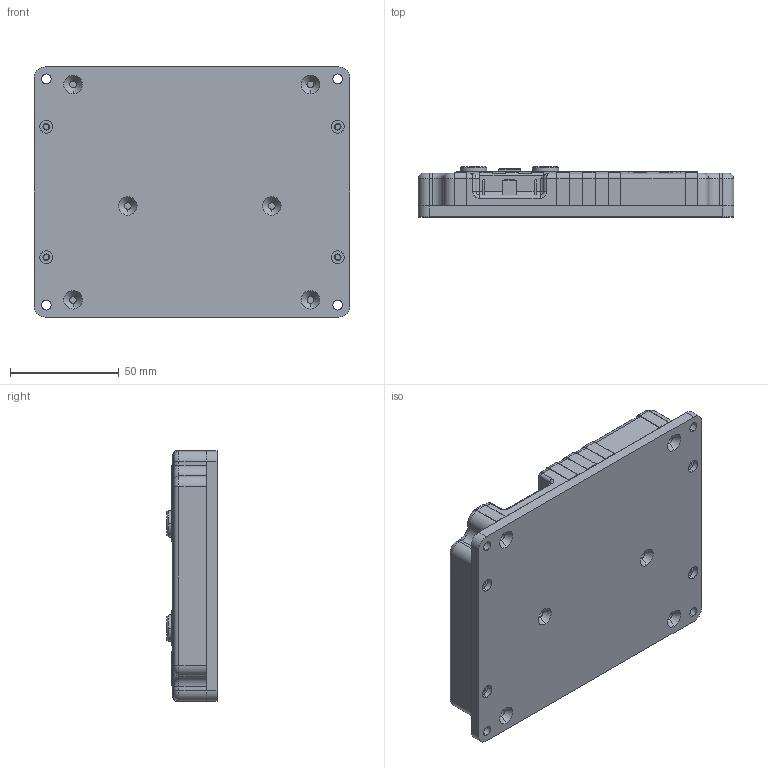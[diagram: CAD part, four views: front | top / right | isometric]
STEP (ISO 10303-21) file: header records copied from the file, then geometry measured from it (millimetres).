
FILE_DESCRIPTION (( 'STEP AP214' ), '1' );
FILE_NAME ('STEP_BMS10XX_V32.STEP', '2018-02-01T19:46:31', ( '' ), ( '' ), 'SwSTEP 2.0', 'SolidWorks 2017', '' );
FILE_SCHEMA (( 'AUTOMOTIVE_DESIGN' ));
Length unit declared in the file: millimetre
Products named in the file (4): BottomPlateBMS1050_V40; CASE_BMS10xx_A; STEP_BMS10XX_V32; BPCB_BMS10XX_V32
Assembly tree (3 placements, depth 2):
  STEP_BMS10XX_V32
    BottomPlateBMS1050_V40
    BPCB_BMS10XX_V32
    CASE_BMS10xx_A
Bounding box: 145 x 23.01 x 115.6 mm (x, y, z)
Volume: 172164.4 mm3; surface area: 127800.1 mm2
Topology: 25 solids, 25 shells, 2643 faces, 7325 edges, 4777 vertices
Faces by surface type: plane 1851, cylinder 619, torus 78, bspline 55, cone 30, sphere 10
Entity records: 106567 total; most frequent: CARTESIAN_POINT 18572, ORIENTED_EDGE 14610, DIRECTION 13611, EDGE_CURVE 7305, LINE 5739, VECTOR 5739, VERTEX_POINT 4777, AXIS2_PLACEMENT_3D 3936
